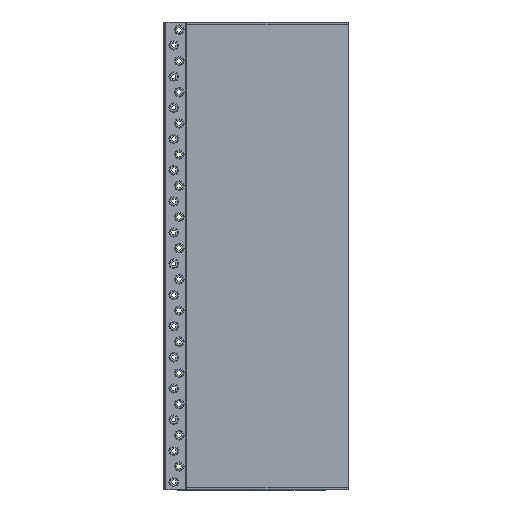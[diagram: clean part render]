
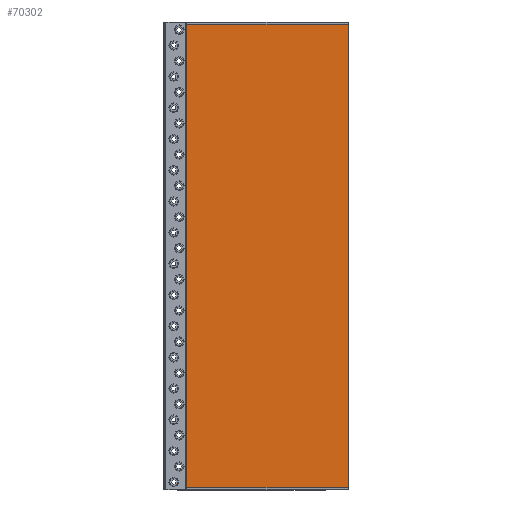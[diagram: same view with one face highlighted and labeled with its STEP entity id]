
A CAD part, top view. The second image highlights one B-rep face of the part: STEP entity #70302.
In plain terms, the highlighted planar face has unit normal (0, 0, 1).
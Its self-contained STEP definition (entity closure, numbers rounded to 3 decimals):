
#69988 = VERTEX_POINT('',#69989);
#69989 = CARTESIAN_POINT('',(9027.5,3.,
    0.));
#69996 = PLANE('',#69997);
#69997 = AXIS2_PLACEMENT_3D('',#69998,#69999,#70000);
#69998 = CARTESIAN_POINT('',(9027.5,3.,-25.)
  );
#69999 = DIRECTION('',(0.,1.,0.));
#70000 = DIRECTION('',(1.,0.,0.));
#70008 = PLANE('',#70009);
#70009 = AXIS2_PLACEMENT_3D('',#70010,#70011,#70012);
#70010 = CARTESIAN_POINT('',(9027.5,597.,-25.)
  );
#70011 = DIRECTION('',(1.,0.,0.));
#70012 = DIRECTION('',(0.,-1.,0.));
#70020 = EDGE_CURVE('',#69988,#70021,#70023,.T.);
#70021 = VERTEX_POINT('',#70022);
#70022 = CARTESIAN_POINT('',(9235.,3.,0.
    ));
#70023 = SURFACE_CURVE('',#70024,(#70028,#70035),.PCURVE_S1.);
#70024 = LINE('',#70025,#70026);
#70025 = CARTESIAN_POINT('',(9027.5,3.,
    0.));
#70026 = VECTOR('',#70027,1.);
#70027 = DIRECTION('',(1.,0.,0.));
#70028 = PCURVE('',#69996,#70029);
#70029 = DEFINITIONAL_REPRESENTATION('',(#70030),#70034);
#70030 = LINE('',#70031,#70032);
#70031 = CARTESIAN_POINT('',(0.,-25.));
#70032 = VECTOR('',#70033,1.);
#70033 = DIRECTION('',(1.,0.));
#70034 = ( GEOMETRIC_REPRESENTATION_CONTEXT(2) 
PARAMETRIC_REPRESENTATION_CONTEXT() REPRESENTATION_CONTEXT('2D SPACE',''
  ) );
#70035 = PCURVE('',#70036,#70041);
#70036 = PLANE('',#70037);
#70037 = AXIS2_PLACEMENT_3D('',#70038,#70039,#70040);
#70038 = CARTESIAN_POINT('',(9131.25,300.,
    0.));
#70039 = DIRECTION('',(0.,0.,1.));
#70040 = DIRECTION('',(1.,0.,0.));
#70041 = DEFINITIONAL_REPRESENTATION('',(#70042),#70046);
#70042 = LINE('',#70043,#70044);
#70043 = CARTESIAN_POINT('',(-103.75,-297.));
#70044 = VECTOR('',#70045,1.);
#70045 = DIRECTION('',(1.,0.));
#70046 = ( GEOMETRIC_REPRESENTATION_CONTEXT(2) 
PARAMETRIC_REPRESENTATION_CONTEXT() REPRESENTATION_CONTEXT('2D SPACE',''
  ) );
#70064 = PLANE('',#70065);
#70065 = AXIS2_PLACEMENT_3D('',#70066,#70067,#70068);
#70066 = CARTESIAN_POINT('',(9235.,3.,-25.));
#70067 = DIRECTION('',(-1.,0.,0.));
#70068 = DIRECTION('',(0.,1.,0.));
#70106 = EDGE_CURVE('',#70021,#70107,#70109,.T.);
#70107 = VERTEX_POINT('',#70108);
#70108 = CARTESIAN_POINT('',(9235.,597.,
    0.));
#70109 = SURFACE_CURVE('',#70110,(#70114,#70121),.PCURVE_S1.);
#70110 = LINE('',#70111,#70112);
#70111 = CARTESIAN_POINT('',(9235.,3.,0.
    ));
#70112 = VECTOR('',#70113,1.);
#70113 = DIRECTION('',(0.,1.,0.));
#70114 = PCURVE('',#70064,#70115);
#70115 = DEFINITIONAL_REPRESENTATION('',(#70116),#70120);
#70116 = LINE('',#70117,#70118);
#70117 = CARTESIAN_POINT('',(0.,-25.));
#70118 = VECTOR('',#70119,1.);
#70119 = DIRECTION('',(1.,0.));
#70120 = ( GEOMETRIC_REPRESENTATION_CONTEXT(2) 
PARAMETRIC_REPRESENTATION_CONTEXT() REPRESENTATION_CONTEXT('2D SPACE',''
  ) );
#70121 = PCURVE('',#70036,#70122);
#70122 = DEFINITIONAL_REPRESENTATION('',(#70123),#70127);
#70123 = LINE('',#70124,#70125);
#70124 = CARTESIAN_POINT('',(103.75,-297.));
#70125 = VECTOR('',#70126,1.);
#70126 = DIRECTION('',(0.,1.));
#70127 = ( GEOMETRIC_REPRESENTATION_CONTEXT(2) 
PARAMETRIC_REPRESENTATION_CONTEXT() REPRESENTATION_CONTEXT('2D SPACE',''
  ) );
#70145 = PLANE('',#70146);
#70146 = AXIS2_PLACEMENT_3D('',#70147,#70148,#70149);
#70147 = CARTESIAN_POINT('',(9235.,597.,-25.)
  );
#70148 = DIRECTION('',(0.,-1.,0.));
#70149 = DIRECTION('',(-1.,0.,0.));
#70182 = EDGE_CURVE('',#70107,#70183,#70185,.T.);
#70183 = VERTEX_POINT('',#70184);
#70184 = CARTESIAN_POINT('',(9027.5,597.,
    0.));
#70185 = SURFACE_CURVE('',#70186,(#70190,#70197),.PCURVE_S1.);
#70186 = LINE('',#70187,#70188);
#70187 = CARTESIAN_POINT('',(9235.,597.,
    0.));
#70188 = VECTOR('',#70189,1.);
#70189 = DIRECTION('',(-1.,0.,0.));
#70190 = PCURVE('',#70145,#70191);
#70191 = DEFINITIONAL_REPRESENTATION('',(#70192),#70196);
#70192 = LINE('',#70193,#70194);
#70193 = CARTESIAN_POINT('',(0.,-25.));
#70194 = VECTOR('',#70195,1.);
#70195 = DIRECTION('',(1.,0.));
#70196 = ( GEOMETRIC_REPRESENTATION_CONTEXT(2) 
PARAMETRIC_REPRESENTATION_CONTEXT() REPRESENTATION_CONTEXT('2D SPACE',''
  ) );
#70197 = PCURVE('',#70036,#70198);
#70198 = DEFINITIONAL_REPRESENTATION('',(#70199),#70203);
#70199 = LINE('',#70200,#70201);
#70200 = CARTESIAN_POINT('',(103.75,297.));
#70201 = VECTOR('',#70202,1.);
#70202 = DIRECTION('',(-1.,0.));
#70203 = ( GEOMETRIC_REPRESENTATION_CONTEXT(2) 
PARAMETRIC_REPRESENTATION_CONTEXT() REPRESENTATION_CONTEXT('2D SPACE',''
  ) );
#70253 = EDGE_CURVE('',#70183,#69988,#70254,.T.);
#70254 = SURFACE_CURVE('',#70255,(#70259,#70266),.PCURVE_S1.);
#70255 = LINE('',#70256,#70257);
#70256 = CARTESIAN_POINT('',(9027.5,597.,
    0.));
#70257 = VECTOR('',#70258,1.);
#70258 = DIRECTION('',(0.,-1.,0.));
#70259 = PCURVE('',#70008,#70260);
#70260 = DEFINITIONAL_REPRESENTATION('',(#70261),#70265);
#70261 = LINE('',#70262,#70263);
#70262 = CARTESIAN_POINT('',(0.,-25.));
#70263 = VECTOR('',#70264,1.);
#70264 = DIRECTION('',(1.,0.));
#70265 = ( GEOMETRIC_REPRESENTATION_CONTEXT(2) 
PARAMETRIC_REPRESENTATION_CONTEXT() REPRESENTATION_CONTEXT('2D SPACE',''
  ) );
#70266 = PCURVE('',#70036,#70267);
#70267 = DEFINITIONAL_REPRESENTATION('',(#70268),#70272);
#70268 = LINE('',#70269,#70270);
#70269 = CARTESIAN_POINT('',(-103.75,297.));
#70270 = VECTOR('',#70271,1.);
#70271 = DIRECTION('',(0.,-1.));
#70272 = ( GEOMETRIC_REPRESENTATION_CONTEXT(2) 
PARAMETRIC_REPRESENTATION_CONTEXT() REPRESENTATION_CONTEXT('2D SPACE',''
  ) );
#70302 = ADVANCED_FACE('',(#70303),#70036,.T.);
#70303 = FACE_BOUND('',#70304,.T.);
#70304 = EDGE_LOOP('',(#70305,#70306,#70307,#70308));
#70305 = ORIENTED_EDGE('',*,*,#70020,.T.);
#70306 = ORIENTED_EDGE('',*,*,#70106,.T.);
#70307 = ORIENTED_EDGE('',*,*,#70182,.T.);
#70308 = ORIENTED_EDGE('',*,*,#70253,.T.);
